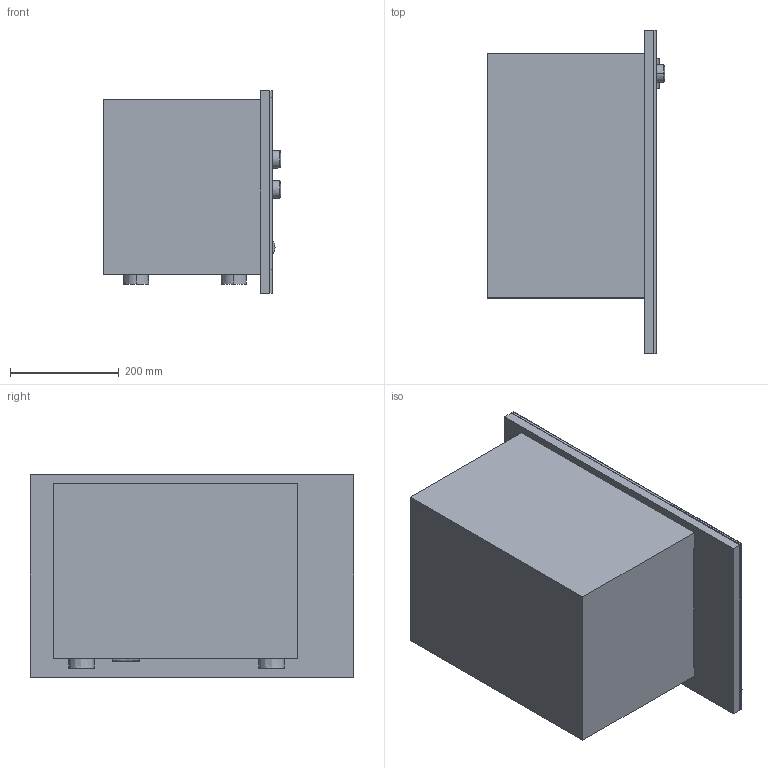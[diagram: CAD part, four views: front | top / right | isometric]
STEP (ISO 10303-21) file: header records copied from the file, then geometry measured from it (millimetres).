
FILE_DESCRIPTION(/* description */ (''),/* implementation_level */ '2;1');
FILE_NAME(/* name */ 'M6030_CLST',/* time_stamp */ '2013-04-22T14:50:07+02:00',/* author */ (''),/* organization */ (''),/* preprocessor_version */ 'ST-DEVELOPER v10',/* originating_system */ '',/* authorisation */ '');
FILE_SCHEMA (('AUTOMOTIVE_DESIGN_CC2'));
Length unit declared in the file: millimetre
Products named in the file (1): 1
Bounding box: 327.32 x 594.92 x 372.49 mm (x, y, z)
Volume: 30232194.7 mm3; surface area: 1894579 mm2
Topology: 17 solids, 17 shells, 125 faces, 274 edges, 160 vertices
Faces by surface type: bspline 125
Entity records: 4857 total; most frequent: CARTESIAN_POINT 3049, ORIENTED_EDGE 500, EDGE_CURVE 250, B_SPLINE_CURVE_WITH_KNOTS 218, VERTEX_POINT 160, EDGE_LOOP 128, ADVANCED_FACE 125, FACE_OUTER_BOUND 125
